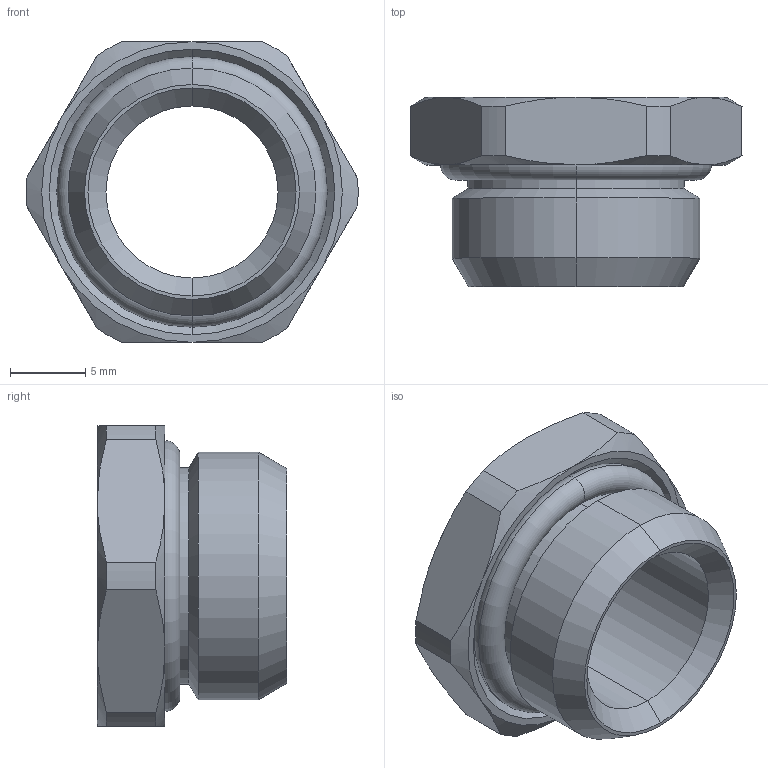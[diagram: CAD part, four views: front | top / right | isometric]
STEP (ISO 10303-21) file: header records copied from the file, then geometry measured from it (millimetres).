
FILE_DESCRIPTION (( 'STEP AP214' ), '1' );
FILE_NAME ('0209200004A.STEP', '2013-01-24T12:16:58', ( 'ST01' ), ( '' ), 'SwSTEP 2.0', 'SolidWorks 2012', '' );
FILE_SCHEMA (( 'AUTOMOTIVE_DESIGN' ));
Length unit declared in the file: millimetre
Products named in the file (1): 0209200004A
Bounding box: 22.09 x 12.6 x 20 mm (x, y, z)
Volume: 1833 mm3; surface area: 1980.2 mm2
Topology: 2 solids, 2 shells, 52 faces, 114 edges, 66 vertices
Faces by surface type: cone 22, cylinder 12, plane 10, torus 8
Entity records: 2139 total; most frequent: CARTESIAN_POINT 377, DIRECTION 258, ORIENTED_EDGE 228, AXIS2_PLACEMENT_3D 115, EDGE_CURVE 114, VERTEX_POINT 66, CIRCLE 62, EDGE_LOOP 56
